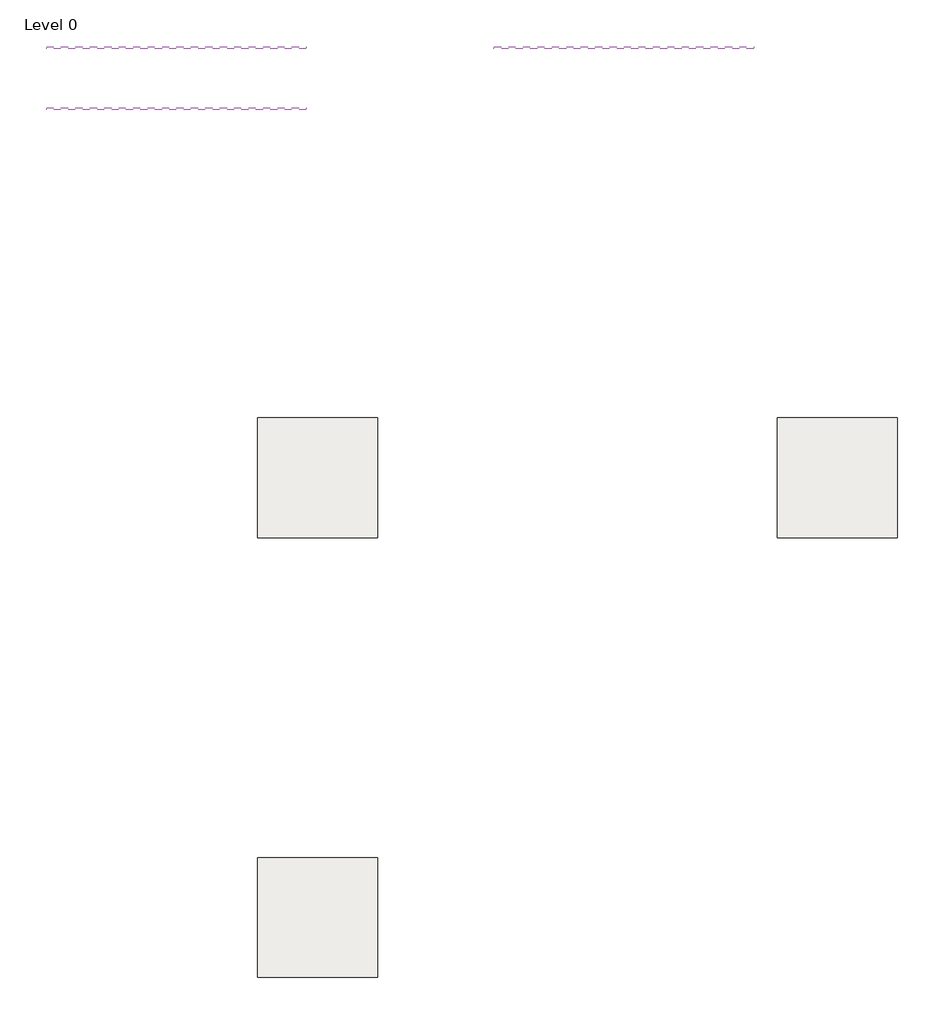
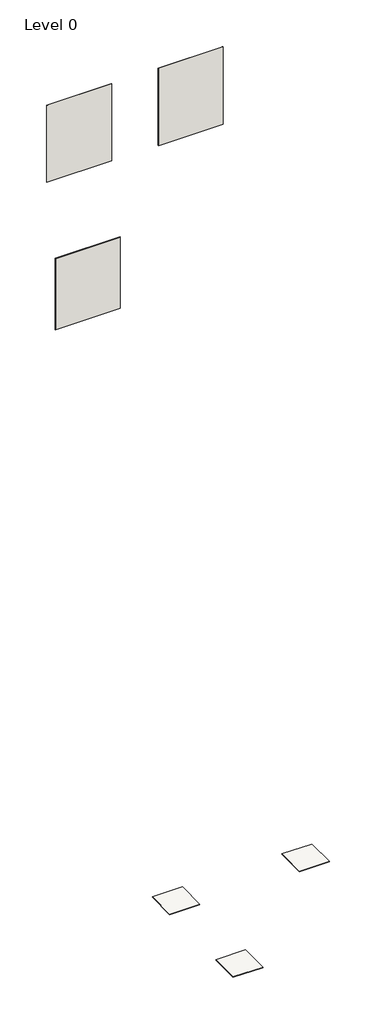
# One storey: 3 slabs, 3 walls.
"""IFC4 building model written with IfcOpenShell, lengths in millimetres."""

from ifc_helpers import new_model, si_unit, frame, origin, place, context, project, spatial, polyline, outline, extrude, element, save

model = new_model("IFC4")

# Units and contexts
model_context = context("Model", 3, world=origin())
ifc_project = project(units=[si_unit("LENGTHUNIT", "METRE", prefix="MILLI")], contexts=[model_context])

# Site, building, storey
site = spatial("IfcSite", under=ifc_project)
building = spatial("IfcBuilding", under=site)
storey = spatial("IfcBuildingStorey", under=building, Name="Level 0", Elevation=0.0)

# Slabs
placement = place(None, origin())
element("IfcSlab", 1, ObjectType="Floor_Tiles_Refin-Fossil-Beige-60x60 LT85", at=placement, inside=storey, context=model_context, shape_type="SweptSolid", body=[
    extrude(outline(polyline([(7574.3752062, 6288.4192064), (7574.3752062, 5688.4192064), (6974.3752062, 5688.4192064), (6974.3752062, 6288.4192064), (7574.3752062, 6288.4192064)])), frame((0.0, 0.0, -10.0), z_axis=(0.0, 0.0, 1.0), x_axis=(1.0, 0.0, 0.0)), (0.0, 0.0, 1.0), 10.0),
])
element("IfcSlab", 2, ObjectType="Floor_Tiles_Refin-Fossil-Brown-60x60 LT83", at=placement, inside=storey, context=model_context, shape_type="SweptSolid", body=[
    extrude(outline(polyline([(10174.3752062, 6288.4192064), (10174.3752062, 5688.4192064), (9574.3752062, 5688.4192064), (9574.3752062, 6288.4192064), (10174.3752062, 6288.4192064)])), frame((0.0, 0.0, -10.0), z_axis=(0.0, 0.0, 1.0), x_axis=(1.0, 0.0, 0.0)), (0.0, 0.0, 1.0), 10.0),
])
element("IfcSlab", 3, ObjectType="Floor_Tiles_Refin-Fossil-Grey-60x60 LT84", at=placement, inside=storey, context=model_context, shape_type="SweptSolid", body=[
    extrude(outline(polyline([(7574.3752062, 4088.4192064), (7574.3752062, 3488.4192064), (6974.3752062, 3488.4192064), (6974.3752062, 4088.4192064), (7574.3752062, 4088.4192064)])), frame((0.0, 0.0, -10.0), z_axis=(0.0, 0.0, 1.0), x_axis=(1.0, 0.0, 0.0)), (0.0, 0.0, 1.0), 10.0),
])

# Walls
element("IfcWall", 4, ObjectType="Wall_Tiles_Refin-Fossil-Brown-60x60 LT83", at=placement, inside=storey, context=model_context, shape_type="SweptSolid", body=[
    extrude(outline(polyline([(9457.3752062, 8132.3838631), (8157.3752062, 8132.3838631), (8157.3752062, 8142.3838631), (9457.3752062, 8142.3838631), (9457.3752062, 8132.3838631)])), frame((0.0, 0.0, 14387.6770443), z_axis=(0.0, 0.0, 1.0), x_axis=(1.0, 0.0, 0.0)), (0.0, 0.0, 1.0), 1641.7417352),
])
element("IfcWall", 5, ObjectType="Wall_Tiles_Refin-Fossil-Beige-60x60 LT85", at=placement, inside=storey, context=model_context, shape_type="SweptSolid", body=[
    extrude(outline(polyline([(7217.3752062, 8132.3838631), (5917.3752062, 8132.3838631), (5917.3752062, 8142.3838631), (7217.3752062, 8142.3838631), (7217.3752062, 8132.3838631)])), frame((0.0, 0.0, 14403.7267346), z_axis=(0.0, 0.0, 1.0), x_axis=(1.0, 0.0, 0.0)), (0.0, 0.0, 1.0), 1625.692045),
])
element("IfcWall", 6, ObjectType="Wall_Tiles_Refin-Fossil-Grey-60x60 LT84", at=placement, inside=storey, context=model_context, shape_type="SweptSolid", body=[
    extrude(outline(polyline([(7217.3752062, 7827.3838631), (5917.3752062, 7827.3838631), (5917.3752062, 7837.3838631), (7217.3752062, 7837.3838631), (7217.3752062, 7827.3838631)])), frame((0.0, 0.0, 11452.5436262), z_axis=(0.0, 0.0, 1.0), x_axis=(1.0, 0.0, 0.0)), (0.0, 0.0, 1.0), 1513.1985566),
])

save(model, "model.ifc")
